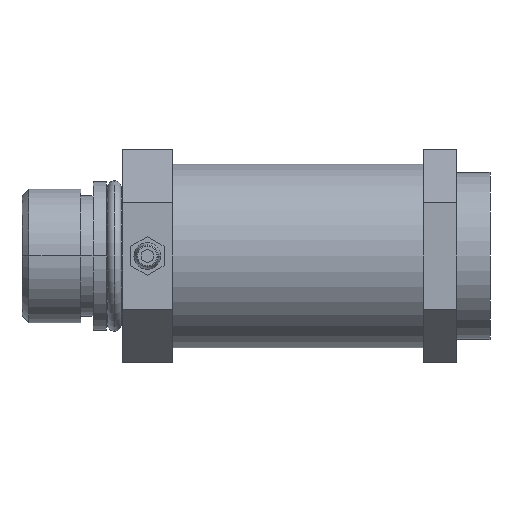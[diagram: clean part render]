
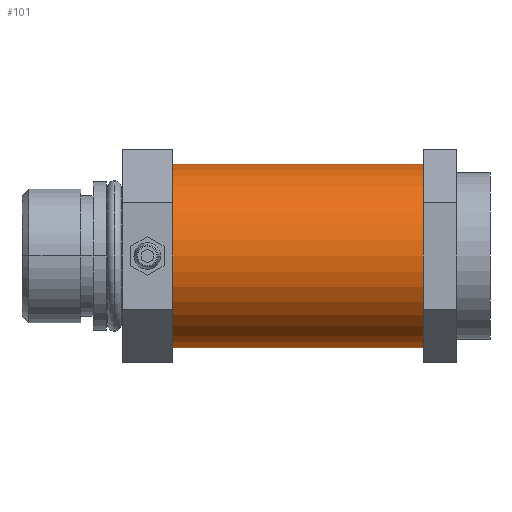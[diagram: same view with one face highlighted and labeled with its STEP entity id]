
A CAD part, front view. The second image highlights one B-rep face of the part: STEP entity #101.
In plain terms, the highlighted cylindrical face has radius 17.462 mm (diameter 34.925 mm), a partial arc.
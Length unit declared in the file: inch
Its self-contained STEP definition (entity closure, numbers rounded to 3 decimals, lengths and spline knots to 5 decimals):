
#31=CARTESIAN_POINT('',(-0.5,0.,0.));
#32=DIRECTION('',(1.,0.,0.));
#33=DIRECTION('',(0.,0.,1.));
#34=AXIS2_PLACEMENT_3D('',#31,#32,#33);
#36=DIRECTION('',(1.,0.,0.));
#37=VECTOR('',#36,1.875);
#38=CARTESIAN_POINT('',(-2.375,0.,-0.6875));
#39=LINE('',#38,#37);
#40=DIRECTION('',(1.,0.,0.));
#41=VECTOR('',#40,1.875);
#42=CARTESIAN_POINT('',(-2.375,0.,0.6875));
#43=LINE('',#42,#41);
#44=CARTESIAN_POINT('',(-2.375,0.,0.));
#45=DIRECTION('',(-1.,0.,0.));
#46=DIRECTION('',(0.,0.,-1.));
#47=AXIS2_PLACEMENT_3D('',#44,#45,#46);
#54=CARTESIAN_POINT('',(-2.375,0.,0.6875));
#55=CARTESIAN_POINT('',(-0.5,0.,0.6875));
#56=VERTEX_POINT('',#54);
#57=VERTEX_POINT('',#55);
#58=CARTESIAN_POINT('',(-2.375,0.,-0.6875));
#59=CARTESIAN_POINT('',(-0.5,0.,-0.6875));
#60=VERTEX_POINT('',#58);
#61=VERTEX_POINT('',#59);
#89=CARTESIAN_POINT('',(-2.375,0.,0.));
#90=DIRECTION('',(1.,0.,0.));
#91=DIRECTION('',(0.,0.,-1.));
#92=AXIS2_PLACEMENT_3D('',#89,#90,#91);
#93=CYLINDRICAL_SURFACE('',#92,0.6875);
#94=ORIENTED_EDGE('',*,*,#84,.T.);
#95=ORIENTED_EDGE('',*,*,#73,.F.);
#97=ORIENTED_EDGE('',*,*,#96,.T.);
#98=ORIENTED_EDGE('',*,*,#69,.T.);
#99=EDGE_LOOP('',(#94,#95,#97,#98));
#100=FACE_OUTER_BOUND('',#99,.F.);
#35=CIRCLE('',#34,0.6875);
#48=CIRCLE('',#47,0.6875);
#69=EDGE_CURVE('',#56,#57,#43,.T.);
#73=EDGE_CURVE('',#60,#61,#39,.T.);
#84=EDGE_CURVE('',#57,#61,#35,.T.);
#96=EDGE_CURVE('',#60,#56,#48,.T.);
#101=ADVANCED_FACE('',(#100),#93,.T.);
